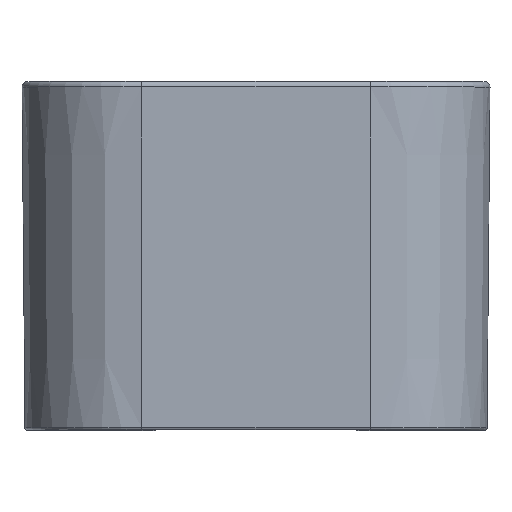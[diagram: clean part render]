
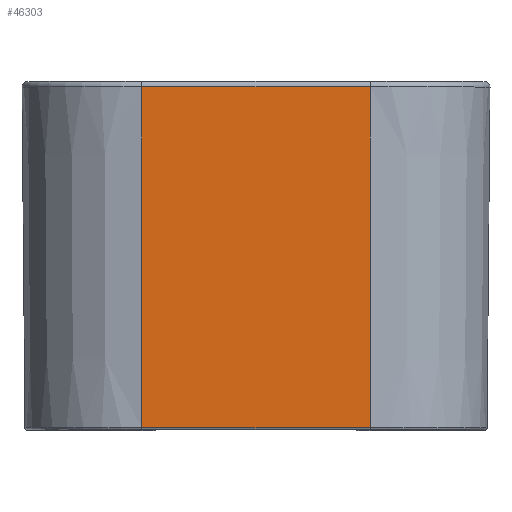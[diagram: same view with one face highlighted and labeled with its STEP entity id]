
A CAD part, top view. The second image highlights one B-rep face of the part: STEP entity #46303.
In plain terms, the highlighted planar face has unit normal (0, -0.009, 1).
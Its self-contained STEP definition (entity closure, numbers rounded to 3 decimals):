
#2466 = CARTESIAN_POINT ( 'NONE',  ( 105., 0., 160. ) ) ;
#2625 = VERTEX_POINT ( 'NONE', #39255 ) ;
#2694 = DIRECTION ( 'NONE',  ( 0., -0.009, 1. ) ) ;
#2941 = CARTESIAN_POINT ( 'NONE',  ( -105., -5.044, 159.956 ) ) ;
#18406 = AXIS2_PLACEMENT_3D ( 'NONE', #59113, #2694, #55375 ) ;
#18454 = VECTOR ( 'NONE', #56568, 1000. ) ;
#20504 = ORIENTED_EDGE ( 'NONE', *, *, #39046, .T. ) ;
#21645 = ORIENTED_EDGE ( 'NONE', *, *, #27703, .T. ) ;
#24280 = CARTESIAN_POINT ( 'NONE',  ( -105., 0., 160. ) ) ;
#26224 = VECTOR ( 'NONE', #38831, 1000. ) ;
#26378 = DIRECTION ( 'NONE',  ( 1., 0., 0. ) ) ;
#26921 = DIRECTION ( 'NONE',  ( 0., -1., -0.009 ) ) ;
#27703 = EDGE_CURVE ( 'NONE', #39557, #2625, #60468, .T. ) ;
#28342 = CARTESIAN_POINT ( 'NONE',  ( -215., -5.044, 159.956 ) ) ;
#31493 = PLANE ( 'NONE',  #18406 ) ;
#32762 = EDGE_CURVE ( 'NONE', #43754, #2625, #54242, .T. ) ;
#34488 = LINE ( 'NONE', #24280, #26224 ) ;
#38113 = VERTEX_POINT ( 'NONE', #2941 ) ;
#38831 = DIRECTION ( 'NONE',  ( 0., -1., -0.009 ) ) ;
#39046 = EDGE_CURVE ( 'NONE', #38113, #39557, #34488, .T. ) ;
#39255 = CARTESIAN_POINT ( 'NONE',  ( 105., -318.017, 157.225 ) ) ;
#39557 = VERTEX_POINT ( 'NONE', #52466 ) ;
#41624 = ORIENTED_EDGE ( 'NONE', *, *, #32762, .F. ) ;
#41983 = VECTOR ( 'NONE', #26921, 1000. ) ;
#43754 = VERTEX_POINT ( 'NONE', #59033 ) ;
#46303 = ADVANCED_FACE ( 'Faccia22', ( #59714 ), #31493, .T. ) ;
#51606 = EDGE_CURVE ( 'NONE', #43754, #38113, #52213, .T. ) ;
#52213 = LINE ( 'NONE', #28342, #18454 ) ;
#52466 = CARTESIAN_POINT ( 'NONE',  ( -105., -318.017, 157.225 ) ) ;
#52638 = ORIENTED_EDGE ( 'NONE', *, *, #51606, .T. ) ;
#53822 = EDGE_LOOP ( 'NONE', ( #20504, #21645, #41624, #52638 ) ) ;
#54242 = LINE ( 'NONE', #2466, #41983 ) ;
#55375 = DIRECTION ( 'NONE',  ( 0., -1., -0.009 ) ) ;
#55820 = CARTESIAN_POINT ( 'NONE',  ( 0., -318.017, 157.225 ) ) ;
#56568 = DIRECTION ( 'NONE',  ( -1., 0., 0. ) ) ;
#58712 = VECTOR ( 'NONE', #26378, 1000. ) ;
#59033 = CARTESIAN_POINT ( 'NONE',  ( 105., -5.044, 159.956 ) ) ;
#59113 = CARTESIAN_POINT ( 'NONE',  ( -215., 0., 160. ) ) ;
#59714 = FACE_OUTER_BOUND ( 'NONE', #53822, .T. ) ;
#60468 = LINE ( 'NONE', #55820, #58712 ) ;
